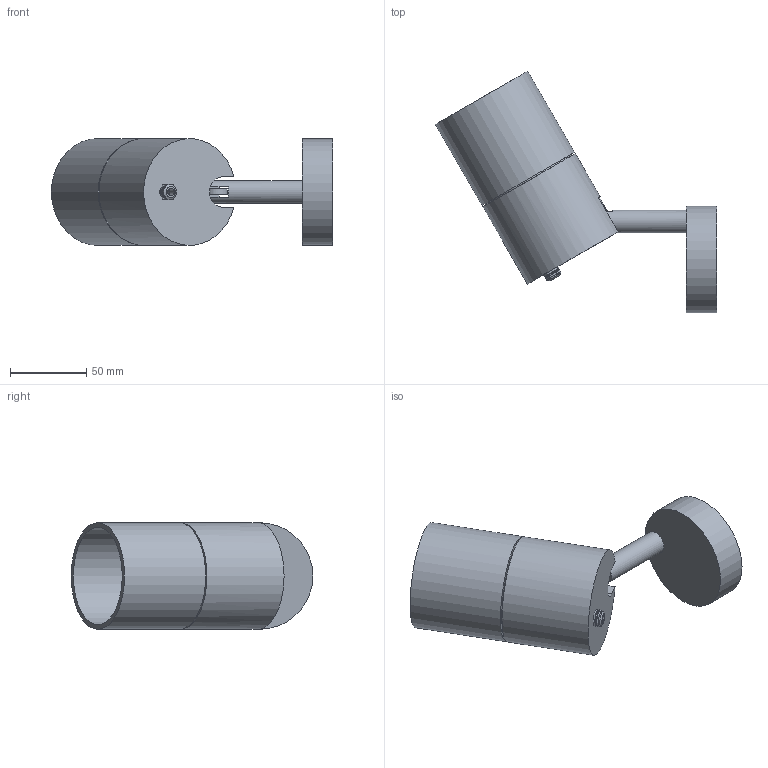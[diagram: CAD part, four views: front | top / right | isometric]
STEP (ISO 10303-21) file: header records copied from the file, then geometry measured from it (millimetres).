
FILE_DESCRIPTION(/* description */ (''),/* implementation_level */ '2;1');
FILE_NAME(/* name */ 'C:/Elena/ILM/02 3D/Elvira/Pubblico/Corallo bracket.step',/* time_stamp */ '2020-06-08T12:20:14+02:00',/* author */ (''),/* organization */ (''),/* preprocessor_version */ 'ST-DEVELOPER v18.1',/* originating_system */ 'Autodesk Translation Framework v9.3.0.1241',/* authorisation */ '');
FILE_SCHEMA (('AUTOMOTIVE_DESIGN { 1 0 10303 214 3 1 1 }'));
Length unit declared in the file: millimetre
Products named in the file (1): Pubblico (1)
Bounding box: 184.63 x 158.65 x 70 mm (x, y, z)
Volume: 378606.7 mm3; surface area: 71475 mm2
Topology: 6 solids, 6 shells, 109 faces, 241 edges, 156 vertices
Faces by surface type: plane 60, cylinder 39, cone 6, torus 4
Full cylindrical faces by diameter (mm): 2.2 x1, 3 x4, 4 x3, 5 x3, 8.6 x1, 10 x1, 10.127 x1, 15 x2, 50.6 x1, 56 x1, 61 x1, 64 x1, 65 x2, 70 x3
Entity records: 3267 total; most frequent: CARTESIAN_POINT 673, DIRECTION 561, ORIENTED_EDGE 482, EDGE_CURVE 241, AXIS2_PLACEMENT_3D 223, VERTEX_POINT 156, EDGE_LOOP 137, LINE 115
